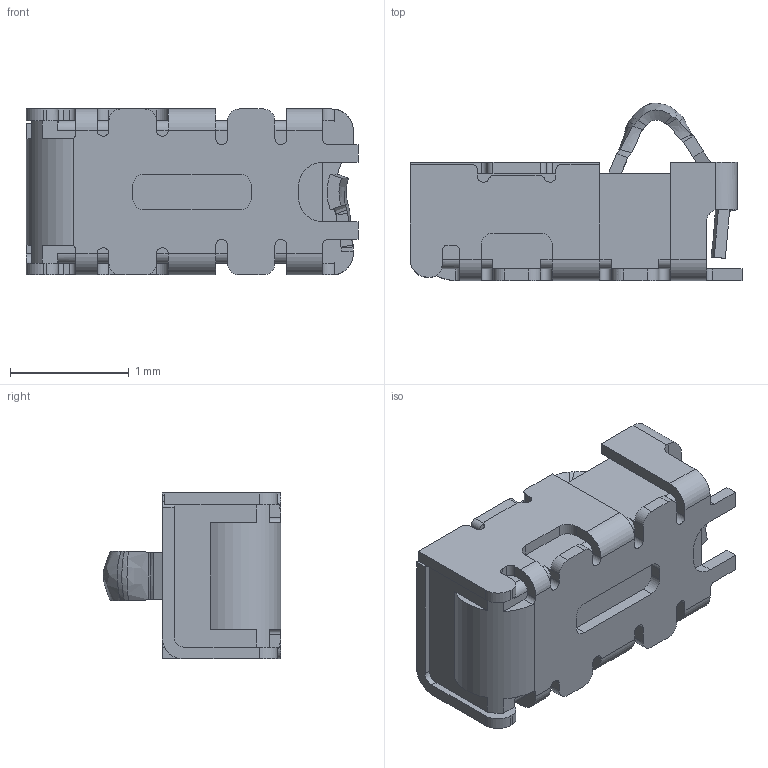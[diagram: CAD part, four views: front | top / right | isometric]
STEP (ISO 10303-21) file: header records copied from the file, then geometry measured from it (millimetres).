
FILE_DESCRIPTION((''),'2;1');
FILE_NAME('3D-2014015-0A-00_ASM','2022-04-25T',('TPS'),(''),'CREO PARAMETRIC BY PTC INC, 2015290','CREO PARAMETRIC BY PTC INC, 2015290','');
FILE_SCHEMA(('CONFIG_CONTROL_DESIGN'));
Length unit declared in the file: millimetre
Products named in the file (2): 3D-2014015-0A-00; 3D-2014015-0A-00_ASM
Assembly tree (1 placements, depth 2):
  3D-2014015-0A-00_ASM
    3D-2014015-0A-00
Bounding box: 2.8 x 1.5 x 1.4 mm (x, y, z)
Volume: 3.2 mm3; surface area: 18.8 mm2
Topology: 1 solids, 1 shells, 287 faces, 789 edges, 505 vertices
Faces by surface type: plane 137, cylinder 87, bspline 60, cone 3
Entity records: 10872 total; most frequent: CARTESIAN_POINT 3825, ORIENTED_EDGE 1578, DIRECTION 1294, EDGE_CURVE 789, VERTEX_POINT 505, VECTOR 474, LINE 474, AXIS2_PLACEMENT_3D 410
